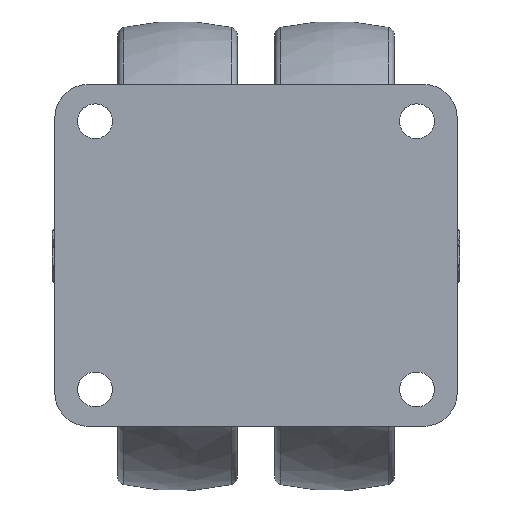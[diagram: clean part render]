
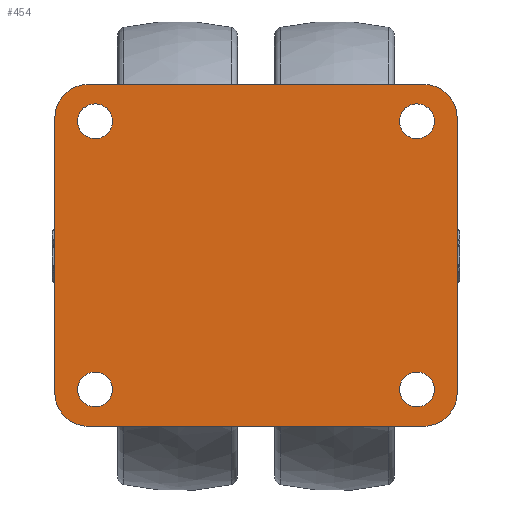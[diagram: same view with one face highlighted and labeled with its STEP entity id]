
A CAD part, top view. The second image highlights one B-rep face of the part: STEP entity #454.
In plain terms, the highlighted planar face has unit normal (0, 0, 1).
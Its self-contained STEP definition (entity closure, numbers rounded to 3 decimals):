
#116=CARTESIAN_POINT('',(120.,100.,25.));
#117=DIRECTION('',(0.,0.,-1.));
#118=DIRECTION('',(1.,0.,0.));
#119=AXIS2_PLACEMENT_3D('',#116,#117,#118);
#121=CARTESIAN_POINT('',(120.,100.,25.));
#122=DIRECTION('',(0.,0.,-1.));
#123=DIRECTION('',(-1.,0.,0.));
#124=AXIS2_PLACEMENT_3D('',#121,#122,#123);
#126=CARTESIAN_POINT('',(-120.,100.,25.));
#127=DIRECTION('',(0.,0.,-1.));
#128=DIRECTION('',(1.,0.,0.));
#129=AXIS2_PLACEMENT_3D('',#126,#127,#128);
#131=CARTESIAN_POINT('',(-120.,100.,25.));
#132=DIRECTION('',(0.,0.,-1.));
#133=DIRECTION('',(-1.,0.,0.));
#134=AXIS2_PLACEMENT_3D('',#131,#132,#133);
#136=CARTESIAN_POINT('',(-120.,-100.,25.));
#137=DIRECTION('',(0.,0.,-1.));
#138=DIRECTION('',(1.,0.,0.));
#139=AXIS2_PLACEMENT_3D('',#136,#137,#138);
#141=CARTESIAN_POINT('',(-120.,-100.,25.));
#142=DIRECTION('',(0.,0.,-1.));
#143=DIRECTION('',(-1.,0.,0.));
#144=AXIS2_PLACEMENT_3D('',#141,#142,#143);
#146=CARTESIAN_POINT('',(120.,-100.,25.));
#147=DIRECTION('',(0.,0.,-1.));
#148=DIRECTION('',(1.,0.,0.));
#149=AXIS2_PLACEMENT_3D('',#146,#147,#148);
#151=CARTESIAN_POINT('',(120.,-100.,25.));
#152=DIRECTION('',(0.,0.,-1.));
#153=DIRECTION('',(-1.,0.,0.));
#154=AXIS2_PLACEMENT_3D('',#151,#152,#153);
#156=CARTESIAN_POINT('',(-125.,102.5,25.));
#157=DIRECTION('',(0.,0.,1.));
#158=DIRECTION('',(0.,1.,0.));
#159=AXIS2_PLACEMENT_3D('',#156,#157,#158);
#161=DIRECTION('',(-1.,0.,0.));
#162=VECTOR('',#161,250.);
#163=CARTESIAN_POINT('',(125.,127.5,25.));
#164=LINE('',#163,#162);
#165=CARTESIAN_POINT('',(125.,102.5,25.));
#166=DIRECTION('',(0.,0.,1.));
#167=DIRECTION('',(1.,0.,0.));
#168=AXIS2_PLACEMENT_3D('',#165,#166,#167);
#170=DIRECTION('',(0.,1.,0.));
#171=VECTOR('',#170,205.);
#172=CARTESIAN_POINT('',(150.,-102.5,25.));
#173=LINE('',#172,#171);
#174=CARTESIAN_POINT('',(125.,-102.5,25.));
#175=DIRECTION('',(0.,0.,1.));
#176=DIRECTION('',(0.,-1.,0.));
#177=AXIS2_PLACEMENT_3D('',#174,#175,#176);
#179=DIRECTION('',(1.,0.,0.));
#180=VECTOR('',#179,250.);
#181=CARTESIAN_POINT('',(-125.,-127.5,25.));
#182=LINE('',#181,#180);
#183=CARTESIAN_POINT('',(-125.,-102.5,25.));
#184=DIRECTION('',(0.,0.,1.));
#185=DIRECTION('',(-1.,0.,0.));
#186=AXIS2_PLACEMENT_3D('',#183,#184,#185);
#188=DIRECTION('',(0.,-1.,0.));
#189=VECTOR('',#188,205.);
#190=CARTESIAN_POINT('',(-150.,102.5,25.));
#191=LINE('',#190,#189);
#264=CARTESIAN_POINT('',(133.,100.,25.));
#265=CARTESIAN_POINT('',(107.,100.,25.));
#266=VERTEX_POINT('',#264);
#267=VERTEX_POINT('',#265);
#268=CARTESIAN_POINT('',(-107.,100.,25.));
#269=CARTESIAN_POINT('',(-133.,100.,25.));
#270=VERTEX_POINT('',#268);
#271=VERTEX_POINT('',#269);
#272=CARTESIAN_POINT('',(-107.,-100.,25.));
#273=CARTESIAN_POINT('',(-133.,-100.,25.));
#274=VERTEX_POINT('',#272);
#275=VERTEX_POINT('',#273);
#276=CARTESIAN_POINT('',(133.,-100.,25.));
#277=CARTESIAN_POINT('',(107.,-100.,25.));
#278=VERTEX_POINT('',#276);
#279=VERTEX_POINT('',#277);
#284=CARTESIAN_POINT('',(-125.,127.5,25.));
#285=VERTEX_POINT('',#284);
#286=CARTESIAN_POINT('',(-150.,102.5,25.));
#287=VERTEX_POINT('',#286);
#292=CARTESIAN_POINT('',(150.,102.5,25.));
#293=VERTEX_POINT('',#292);
#294=CARTESIAN_POINT('',(125.,127.5,25.));
#295=VERTEX_POINT('',#294);
#300=CARTESIAN_POINT('',(-150.,-102.5,25.));
#301=VERTEX_POINT('',#300);
#302=CARTESIAN_POINT('',(-125.,-127.5,25.));
#303=VERTEX_POINT('',#302);
#308=CARTESIAN_POINT('',(125.,-127.5,25.));
#309=VERTEX_POINT('',#308);
#310=CARTESIAN_POINT('',(150.,-102.5,25.));
#311=VERTEX_POINT('',#310);
#409=CARTESIAN_POINT('',(0.,0.,25.));
#410=DIRECTION('',(0.,0.,1.));
#411=DIRECTION('',(1.,0.,0.));
#412=AXIS2_PLACEMENT_3D('',#409,#410,#411);
#413=PLANE('',#412);
#415=ORIENTED_EDGE('',*,*,#414,.F.);
#417=ORIENTED_EDGE('',*,*,#416,.F.);
#419=ORIENTED_EDGE('',*,*,#418,.F.);
#421=ORIENTED_EDGE('',*,*,#420,.F.);
#423=ORIENTED_EDGE('',*,*,#422,.F.);
#425=ORIENTED_EDGE('',*,*,#424,.F.);
#427=ORIENTED_EDGE('',*,*,#426,.F.);
#429=ORIENTED_EDGE('',*,*,#428,.F.);
#430=EDGE_LOOP('',(#415,#417,#419,#421,#423,#425,#427,#429));
#431=FACE_OUTER_BOUND('',#430,.F.);
#433=ORIENTED_EDGE('',*,*,#432,.F.);
#435=ORIENTED_EDGE('',*,*,#434,.F.);
#436=EDGE_LOOP('',(#433,#435));
#437=FACE_BOUND('',#436,.F.);
#439=ORIENTED_EDGE('',*,*,#438,.F.);
#441=ORIENTED_EDGE('',*,*,#440,.F.);
#442=EDGE_LOOP('',(#439,#441));
#443=FACE_BOUND('',#442,.F.);
#445=ORIENTED_EDGE('',*,*,#444,.F.);
#447=ORIENTED_EDGE('',*,*,#446,.F.);
#448=EDGE_LOOP('',(#445,#447));
#449=FACE_BOUND('',#448,.F.);
#450=ORIENTED_EDGE('',*,*,#375,.F.);
#451=ORIENTED_EDGE('',*,*,#396,.F.);
#452=EDGE_LOOP('',(#450,#451));
#453=FACE_BOUND('',#452,.F.);
#120=CIRCLE('',#119,13.);
#125=CIRCLE('',#124,13.);
#130=CIRCLE('',#129,13.);
#135=CIRCLE('',#134,13.);
#140=CIRCLE('',#139,13.);
#145=CIRCLE('',#144,13.);
#150=CIRCLE('',#149,13.);
#155=CIRCLE('',#154,13.);
#160=CIRCLE('',#159,25.);
#169=CIRCLE('',#168,25.);
#178=CIRCLE('',#177,25.);
#187=CIRCLE('',#186,25.);
#375=EDGE_CURVE('',#266,#267,#120,.T.);
#396=EDGE_CURVE('',#267,#266,#125,.T.);
#414=EDGE_CURVE('',#285,#287,#160,.T.);
#416=EDGE_CURVE('',#295,#285,#164,.T.);
#418=EDGE_CURVE('',#293,#295,#169,.T.);
#420=EDGE_CURVE('',#311,#293,#173,.T.);
#422=EDGE_CURVE('',#309,#311,#178,.T.);
#424=EDGE_CURVE('',#303,#309,#182,.T.);
#426=EDGE_CURVE('',#301,#303,#187,.T.);
#428=EDGE_CURVE('',#287,#301,#191,.T.);
#432=EDGE_CURVE('',#270,#271,#130,.T.);
#434=EDGE_CURVE('',#271,#270,#135,.T.);
#438=EDGE_CURVE('',#274,#275,#140,.T.);
#440=EDGE_CURVE('',#275,#274,#145,.T.);
#444=EDGE_CURVE('',#278,#279,#150,.T.);
#446=EDGE_CURVE('',#279,#278,#155,.T.);
#454=ADVANCED_FACE('',(#431,#437,#443,#449,#453),#413,.T.);
